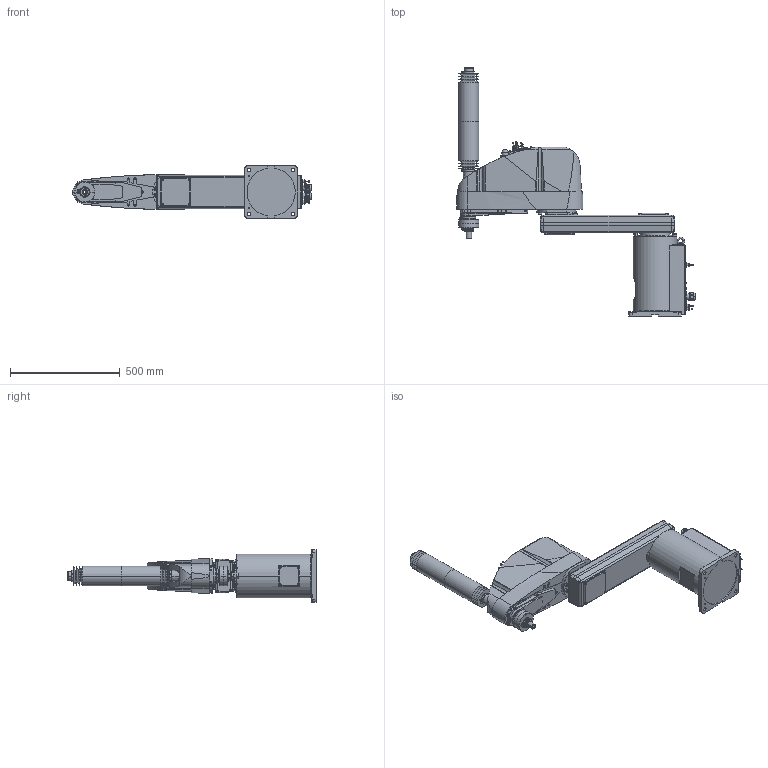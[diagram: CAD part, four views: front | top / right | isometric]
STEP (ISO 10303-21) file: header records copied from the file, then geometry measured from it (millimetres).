
FILE_DESCRIPTION( ( '' ), '1' );
FILE_NAME( '//expscmdclustefs.cadenas.external/client_exchange/iodir/jobs/output/wkb51504496_no0/STEP/G20_854P_2_03.stp', '2012-11-22T13:10:08', ( '' ), ( '' ), ' ', ' ', ' ' );
FILE_SCHEMA( ( 'CONFIG_CONTROL_DESIGN' ) );
Length unit declared in the file: millimetre
Products named in the file (8): 1; 2; 3; 4; 5; 6; 7; 8
Bounding box: 1089.5 x 1133 x 240 mm (x, y, z)
Volume: 43311709.6 mm3; surface area: 1740348 mm2
Topology: 8 solids, 9 shells, 2083 faces, 5018 edges, 3220 vertices
Faces by surface type: plane 1079, cylinder 682, cone 282, torus 39, sphere 1
Entity records: 62927 total; most frequent: CARTESIAN_POINT 12698, DIRECTION 10774, ORIENTED_EDGE 10012, EDGE_CURVE 5006, AXIS2_PLACEMENT_3D 3839, VERTEX_POINT 3220, LINE 3096, VECTOR 3096
